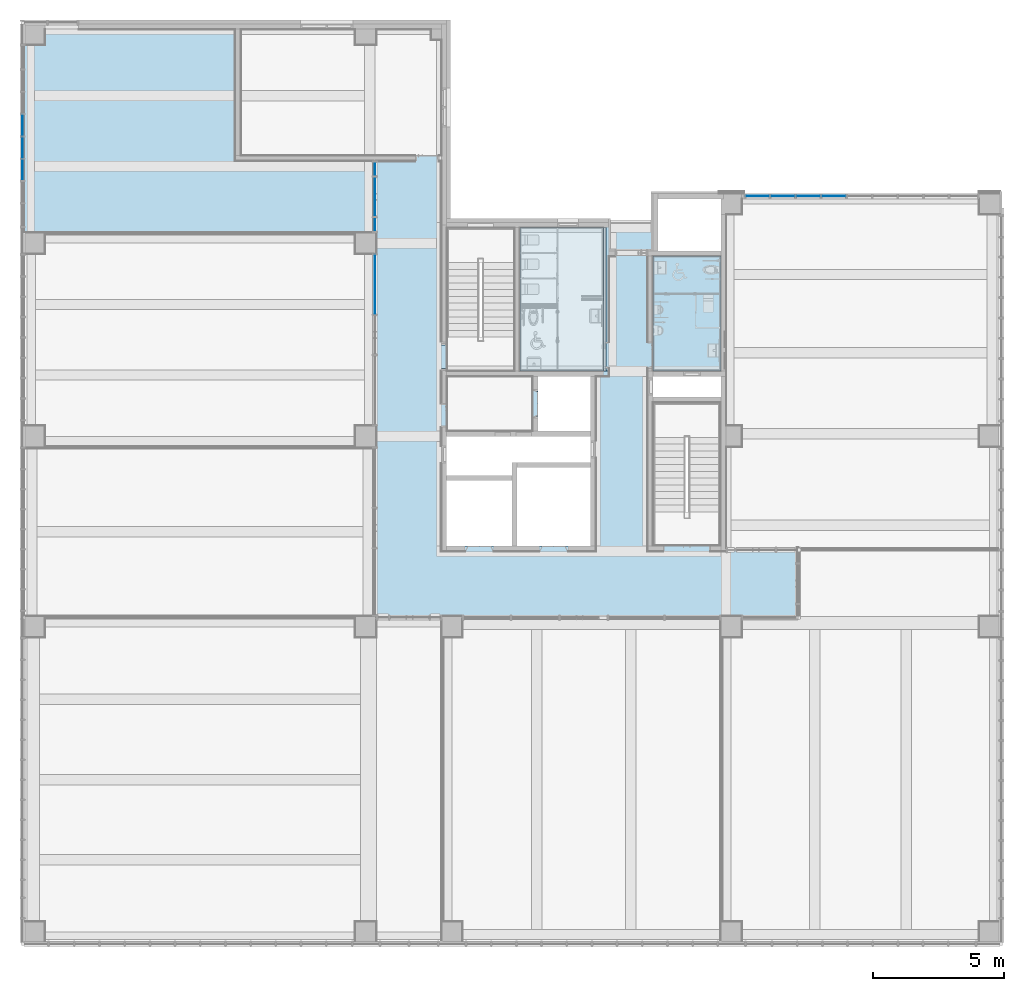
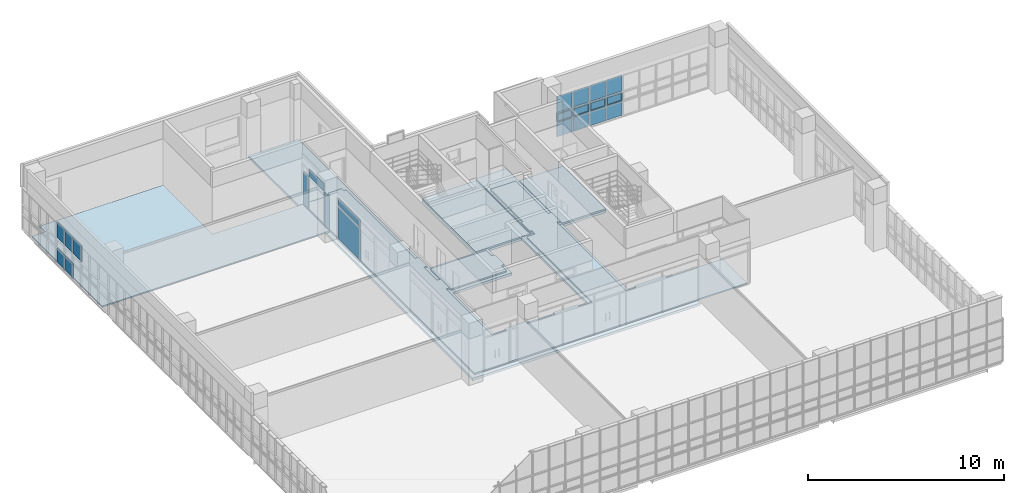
# One storey, part 34 of 76: 22 plates, 9 slabs, 4 elements without a shape of their own.
"""IFC2X3 building model written with IfcOpenShell, lengths in millimetres."""

from ifc_helpers import new_model, entity, si_unit, converted_unit, derived_unit, direction, frame, frame_2d, origin, origin_2d_with_axis, place, context, subcontext, project, spatial, polyline, rectangle, outline, extrude, source, transform, mapped, material, material_list, layer, layer_set, layer_usage, type_object, type_shapes, element, aggregate, save


model = new_model("IFC2X3")

# Units and contexts
model_context = context("Model", 3, precision=0.01, world=origin(), true_north=direction((6.123031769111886e-17, 1.0)))
body_context = subcontext(model_context, "Body", "Model", "MODEL_VIEW")
ifc_project = project(units=[si_unit("LENGTHUNIT", "METRE", prefix="MILLI"), si_unit("AREAUNIT", "SQUARE_METRE"), si_unit("VOLUMEUNIT", "CUBIC_METRE"), converted_unit("PLANEANGLEUNIT", "DEGREE", entity("IfcRatioMeasure", 0.017453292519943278), si_unit("PLANEANGLEUNIT", "RADIAN"), dimensions=[0, 0, 0, 0, 0, 0, 0]), si_unit("MASSUNIT", "GRAM", prefix="KILO"), derived_unit("MASSDENSITYUNIT", [(si_unit("MASSUNIT", "GRAM", prefix="KILO"), 1), (si_unit("LENGTHUNIT", "METRE"), -3)]), derived_unit("MOMENTOFINERTIAUNIT", [(si_unit("LENGTHUNIT", "METRE"), 4)]), si_unit("TIMEUNIT", "SECOND"), si_unit("FREQUENCYUNIT", "HERTZ"), si_unit("THERMODYNAMICTEMPERATUREUNIT", "DEGREE_CELSIUS"), derived_unit("THERMALTRANSMITTANCEUNIT", [(si_unit("MASSUNIT", "GRAM", prefix="KILO"), 1), (si_unit("THERMODYNAMICTEMPERATUREUNIT", "KELVIN"), -1), (si_unit("TIMEUNIT", "SECOND"), -3)]), derived_unit("VOLUMETRICFLOWRATEUNIT", [(si_unit("LENGTHUNIT", "METRE"), 3), (si_unit("TIMEUNIT", "SECOND"), -1)]), derived_unit("MASSFLOWRATEUNIT", [(si_unit("MASSUNIT", "GRAM", prefix="KILO"), 1), (si_unit("TIMEUNIT", "SECOND"), -1)]), derived_unit("ROTATIONALFREQUENCYUNIT", [(si_unit("TIMEUNIT", "SECOND"), -1)]), si_unit("ELECTRICCURRENTUNIT", "AMPERE"), si_unit("ELECTRICVOLTAGEUNIT", "VOLT"), si_unit("POWERUNIT", "WATT"), si_unit("FORCEUNIT", "NEWTON", prefix="KILO"), si_unit("ILLUMINANCEUNIT", "LUX"), si_unit("LUMINOUSFLUXUNIT", "LUMEN"), si_unit("LUMINOUSINTENSITYUNIT", "CANDELA"), derived_unit("USERDEFINED", [(si_unit("MASSUNIT", "GRAM", prefix="KILO"), -1), (si_unit("LENGTHUNIT", "METRE"), -2), (si_unit("TIMEUNIT", "SECOND"), 3), (si_unit("LUMINOUSFLUXUNIT", "LUMEN"), 1)]), derived_unit("SOUNDPOWERUNIT", [(si_unit("MASSUNIT", "GRAM", prefix="KILO"), 1), (si_unit("LENGTHUNIT", "METRE"), 2), (si_unit("TIMEUNIT", "SECOND"), -3)]), derived_unit("SOUNDPRESSUREUNIT", [(si_unit("MASSUNIT", "GRAM", prefix="KILO"), 1), (si_unit("LENGTHUNIT", "METRE"), -1), (si_unit("TIMEUNIT", "SECOND"), -2)]), derived_unit("LINEARVELOCITYUNIT", [(si_unit("LENGTHUNIT", "METRE"), 1), (si_unit("TIMEUNIT", "SECOND"), -1)]), si_unit("PRESSUREUNIT", "PASCAL"), derived_unit("USERDEFINED", [(si_unit("LENGTHUNIT", "METRE"), -2), (si_unit("MASSUNIT", "GRAM", prefix="KILO"), 1), (si_unit("TIMEUNIT", "SECOND"), -2)]), derived_unit("LINEARFORCEUNIT", [(si_unit("MASSUNIT", "GRAM", prefix="KILO"), 1), (si_unit("LENGTHUNIT", "METRE"), 1), (si_unit("TIMEUNIT", "SECOND"), -2), (si_unit("LENGTHUNIT", "METRE"), -1)]), derived_unit("PLANARFORCEUNIT", [(si_unit("MASSUNIT", "GRAM", prefix="KILO"), 1), (si_unit("LENGTHUNIT", "METRE"), 1), (si_unit("TIMEUNIT", "SECOND"), -2), (si_unit("LENGTHUNIT", "METRE"), -2)])], contexts=[model_context])

# Site, building, storey
site_placement = place(None, frame((-14167.972527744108, -657.2125860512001, 0.0)))
site = spatial("IfcSite", under=ifc_project, at=site_placement, Name="Default", CompositionType="ELEMENT")
building_placement = place(site_placement, origin())
building = spatial("IfcBuilding", under=site, at=building_placement, Name="Sample Building", CompositionType="ELEMENT")
storey_placement = place(building_placement, frame((0.0, 0.0, 9300.0)))
storey = spatial("IfcBuildingStorey", under=building, at=storey_placement, Name="지상 3층", CompositionType="ELEMENT", Elevation=9300.000000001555)

# Slab
ifc_material_1 = material(Name="KBIMS-콘크리트")
ifc_layer_1 = layer(ifc_material_1, 150.0)
ifc_layer_set_1 = layer_set([ifc_layer_1], Name="바닥:SL111-철근콘크리트구조 바닥 150mm_S3")
ifc_layer_usage_1 = layer_usage(ifc_layer_set_1, "AXIS3", "POSITIVE", 0.0)
slab_type_1 = type_object("IfcSlabType", Name="바닥:SL111-철근콘크리트구조 바닥 150mm_S3", PredefinedType="FLOOR", material=ifc_layer_set_1)
slab_1_placement = place(storey_placement, origin())
element("IfcSlab", 1, at=slab_1_placement, inside=storey, type_object=slab_type_1, material=ifc_layer_usage_1, Name="바닥:SL111-철근콘크리트구조 바닥 150mm_S3", ObjectType="바닥:SL111-철근콘크리트구조 바닥 150mm_S3", PredefinedType="FLOOR", context=body_context, shape_type="SweptSolid", body=[
    extrude(outline(polyline([(-7900.0, -6442.761990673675), (15050.0, -6442.761990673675), (15050.0, -3492.877378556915), (1750.0000097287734, -3492.877378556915), (1750.0000097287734, 7.131351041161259), (-749.9999936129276, 7.131351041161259), (-749.9999936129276, -3492.8773419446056), (-4950.0, -3492.877341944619), (-4950.0, 2007.1313510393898), (1750.000009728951, 2007.1313510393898), (1750.000009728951, 4407.122658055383), (-4950.0, 4407.122658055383), (-4950.0, 7007.131351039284), (-7900.0, 7007.131351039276), (-7900.0, -6442.761990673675)])), frame((33760.841140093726, 20707.212301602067, 0.0), z_axis=(0.0, 0.0, -1.0), x_axis=(0.0, 1.0, 0.0)), (0.0, 0.0, 1.0), 150.00000000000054),
])

# Curtain wall, plates
curtain_wall_type = type_object("IfcCurtainWallType", Name="커튼월:CW112-스테인리스 스틸 커튼월", PredefinedType="NOTDEFINED")
curtain_wall_1_placement = place(storey_placement, frame((0.0, 0.0, -9300.0)))
curtain_wall_1 = element("IfcCurtainWall", 2, at=curtain_wall_1_placement, inside=storey, type_object=curtain_wall_type, Name="커튼월:CW112-스테인리스 스틸 커튼월", ObjectType="커튼월:CW112-스테인리스 스틸 커튼월")
ifc_material_2 = material(Name="KBIMS-로이유리(코팅)")
plate_type_1 = type_object("IfcPlateType", Name="CW300-THK24.Low-e coating glass:CW300-THK24.Low-e coating glass", PredefinedType="CURTAIN_PANEL", material=ifc_material_2)
shared_shape_1 = source(origin(), body_context, "Body", "SweptSolid", [
    extrude(rectangle(XDim=524.9999999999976, YDim=24.000000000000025, at=origin_2d_with_axis()), frame((0.0, 0.0, 0.0), z_axis=(0.0, 0.0, 1.0), x_axis=(-1.0, 0.0, 0.0)), (0.0, 0.0, 1.0), 2025.000000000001),
])
type_shapes(plate_type_1, [shared_shape_1])
plate_1_placement = place(curtain_wall_1_placement, frame((27522.955105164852, 30194.712275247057, 9430.0), z_axis=(0.0, 0.0, 1.0), x_axis=(0.0, -1.0, 0.0)))
plate_1 = element("IfcPlate", 3, at=plate_1_placement, type_object=plate_type_1, material=ifc_material_2, Name="CW300-THK24.Low-e coating glass:CW300-THK24.Low-e coating glass", ObjectType="CW300-THK24.Low-e coating glass:CW300-THK24.Low-e coating glass", context=body_context, shape_type="MappedRepresentation", body=[
    mapped(shared_shape_1, transform((0.0, 0.0, 0.0), scale=1.0)),
])
plate_type_2 = type_object("IfcPlateType", Name="CW300-THK24.Low-e coating glass:CW300-THK24.Low-e coating glass", PredefinedType="CURTAIN_PANEL", material=ifc_material_2)
shared_shape_2 = source(origin(), body_context, "Body", "SweptSolid", [
    extrude(rectangle(XDim=520.0002780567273, YDim=24.000000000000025, at=origin_2d_with_axis()), frame((0.0, 0.0, 0.0), z_axis=(0.0, 0.0, 1.0), x_axis=(-1.0, 0.0, 0.0)), (0.0, 0.0, 1.0), 2025.000000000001),
])
type_shapes(plate_type_2, [shared_shape_2])
plate_2_placement = place(curtain_wall_1_placement, frame((27522.955105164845, 28067.212447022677, 9430.0), z_axis=(0.0, 0.0, 1.0), x_axis=(0.0, -1.0, 0.0)))
plate_2 = element("IfcPlate", 4, at=plate_2_placement, type_object=plate_type_2, material=ifc_material_2, Name="CW300-THK24.Low-e coating glass:CW300-THK24.Low-e coating glass", ObjectType="CW300-THK24.Low-e coating glass:CW300-THK24.Low-e coating glass", context=body_context, shape_type="MappedRepresentation", body=[
    mapped(shared_shape_2, transform((0.0, 0.0, 0.0), scale=1.0)),
])
plate_type_3 = type_object("IfcPlateType", Name="CW300-THK24.Low-e coating glass:CW300-THK24.Low-e coating glass", PredefinedType="CURTAIN_PANEL", material=ifc_material_2)
shared_shape_3 = source(origin(), body_context, "Body", "SweptSolid", [
    extrude(rectangle(XDim=1504.9996891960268, YDim=24.000000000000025, at=origin_2d_with_axis()), frame((0.0, 0.0, 0.0), z_axis=(0.0, 0.0, 1.0), x_axis=(-1.0, 0.0, 0.0)), (0.0, 0.0, 1.0), 445.00000000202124),
])
type_shapes(plate_type_3, [shared_shape_3])
plate_3_placement = place(curtain_wall_1_placement, frame((27522.955105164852, 29129.71243064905, 11505.0), z_axis=(0.0, 0.0, 1.0), x_axis=(0.0, -1.0, 0.0)))
plate_3 = element("IfcPlate", 5, at=plate_3_placement, type_object=plate_type_3, material=ifc_material_2, Name="CW300-THK24.Low-e coating glass:CW300-THK24.Low-e coating glass", ObjectType="CW300-THK24.Low-e coating glass:CW300-THK24.Low-e coating glass", context=body_context, shape_type="MappedRepresentation", body=[
    mapped(shared_shape_3, transform((0.0, 0.0, 0.0), scale=1.0)),
])
aggregate(curtain_wall_1, [plate_1, plate_2, plate_3])

curtain_wall_2_placement = place(storey_placement, frame((0.0, 0.0, -9300.0)))
curtain_wall_2 = element("IfcCurtainWall", 6, at=curtain_wall_2_placement, inside=storey, type_object=curtain_wall_type, Name="커튼월:CW112-스테인리스 스틸 커튼월", ObjectType="커튼월:CW112-스테인리스 스틸 커튼월")
plate_type_4 = type_object("IfcPlateType", Name="CW300-THK24.Low-e coating glass:CW300-THK24.Low-e coating glass", PredefinedType="CURTAIN_PANEL", material=ifc_material_2)
shared_shape_4 = source(origin(), body_context, "Body", "SweptSolid", [
    extrude(rectangle(XDim=2265.0000000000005, YDim=24.000000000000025, at=origin_2d_with_axis()), frame((0.0, 0.0, 0.0), z_axis=(0.0, 0.0, 1.0), x_axis=(-1.0, 0.0, 0.0)), (0.0, 0.0, 1.0), 2024.9999999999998),
])
type_shapes(plate_type_4, [shared_shape_4])
plate_4_placement = place(curtain_wall_2_placement, frame((27522.955105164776, 25774.712307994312, 9430.0), z_axis=(0.0, 0.0, 1.0), x_axis=(0.0, -1.0, 0.0)))
plate_4 = element("IfcPlate", 7, at=plate_4_placement, type_object=plate_type_4, material=ifc_material_2, Name="CW300-THK24.Low-e coating glass:CW300-THK24.Low-e coating glass", ObjectType="CW300-THK24.Low-e coating glass:CW300-THK24.Low-e coating glass", context=body_context, shape_type="MappedRepresentation", body=[
    mapped(shared_shape_4, transform((0.0, 0.0, 0.0), scale=1.0)),
])
plate_type_5 = type_object("IfcPlateType", Name="CW300-THK24.Low-e coating glass:CW300-THK24.Low-e coating glass", PredefinedType="CURTAIN_PANEL", material=ifc_material_2)
shared_shape_5 = source(origin(), body_context, "Body", "SweptSolid", [
    extrude(rectangle(XDim=2265.0000000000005, YDim=24.000000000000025, at=origin_2d_with_axis()), frame((0.0, 0.0, 0.0), z_axis=(0.0, 0.0, 1.0), x_axis=(-1.0, 0.0, 0.0)), (0.0, 0.0, 1.0), 445.00000000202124),
])
type_shapes(plate_type_5, [shared_shape_5])
plate_5_placement = place(curtain_wall_2_placement, frame((27522.955105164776, 25774.712307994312, 11505.0), z_axis=(0.0, 0.0, 1.0), x_axis=(0.0, -1.0, 0.0)))
plate_5 = element("IfcPlate", 8, at=plate_5_placement, type_object=plate_type_5, material=ifc_material_2, Name="CW300-THK24.Low-e coating glass:CW300-THK24.Low-e coating glass", ObjectType="CW300-THK24.Low-e coating glass:CW300-THK24.Low-e coating glass", context=body_context, shape_type="MappedRepresentation", body=[
    mapped(shared_shape_5, transform((0.0, 0.0, 0.0), scale=1.0)),
])
aggregate(curtain_wall_2, [plate_4, plate_5])

curtain_wall_3_placement = place(storey_placement, frame((0.0, 0.0, -9300.0)))
curtain_wall_3 = element("IfcCurtainWall", 9, at=curtain_wall_3_placement, inside=storey, type_object=curtain_wall_type, Name="커튼월:CW112-스테인리스 스틸 커튼월", ObjectType="커튼월:CW112-스테인리스 스틸 커튼월")
plate_type_6 = type_object("IfcPlateType", Name="CW300-THK24.Low-e coating glass:CW300-THK24.Low-e coating glass", PredefinedType="CURTAIN_PANEL", material=ifc_material_2)
shared_shape_6 = source(origin(), body_context, "Body", "SweptSolid", [
    extrude(rectangle(XDim=804.0000000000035, YDim=24.000000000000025, at=origin_2d_with_axis()), frame((0.0, 0.0, 0.0), z_axis=(0.0, 0.0, 1.0), x_axis=(-1.0, 0.0, 0.0)), (0.0, 0.0, 1.0), 875.0000000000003),
])
type_shapes(plate_type_6, [shared_shape_6])
plate_6_placement = place(curtain_wall_3_placement, frame((14018.587904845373, 31874.81770709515, 9430.0), z_axis=(0.0, 0.0, 1.0), x_axis=(0.0, -1.0, 0.0)))
plate_6 = element("IfcPlate", 10, at=plate_6_placement, type_object=plate_type_6, material=ifc_material_2, Name="CW300-THK24.Low-e coating glass:CW300-THK24.Low-e coating glass", ObjectType="CW300-THK24.Low-e coating glass:CW300-THK24.Low-e coating glass", context=body_context, shape_type="MappedRepresentation", body=[
    mapped(shared_shape_6, transform((0.0, 0.0, 0.0), scale=1.0)),
])
plate_7_placement = place(curtain_wall_3_placement, frame((14018.587904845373, 31020.817707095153, 9430.0), z_axis=(0.0, 0.0, 1.0), x_axis=(0.0, -1.0, 0.0)))
plate_7 = element("IfcPlate", 11, at=plate_7_placement, type_object=plate_type_6, material=ifc_material_2, Name="CW300-THK24.Low-e coating glass:CW300-THK24.Low-e coating glass", ObjectType="CW300-THK24.Low-e coating glass:CW300-THK24.Low-e coating glass", context=body_context, shape_type="MappedRepresentation", body=[
    mapped(shared_shape_6, transform((0.0, 0.0, 0.0), scale=1.0)),
])
plate_type_7 = type_object("IfcPlateType", Name="CW300-THK24.Low-e coating glass:CW300-THK24.Low-e coating glass", PredefinedType="CURTAIN_PANEL", material=ifc_material_2)
shared_shape_7 = source(origin(), body_context, "Body", "SweptSolid", [
    extrude(rectangle(XDim=803.9999999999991, YDim=24.000000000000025, at=origin_2d_with_axis()), frame((0.0, 0.0, 0.0), z_axis=(0.0, 0.0, 1.0), x_axis=(-1.0, 0.0, 0.0)), (0.0, 0.0, 1.0), 995.0000000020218),
])
type_shapes(plate_type_7, [shared_shape_7])
plate_8_placement = place(curtain_wall_3_placement, frame((14018.587904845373, 31874.81770709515, 10955.0), z_axis=(0.0, 0.0, 1.0), x_axis=(0.0, -1.0, 0.0)))
plate_8 = element("IfcPlate", 12, at=plate_8_placement, type_object=plate_type_7, material=ifc_material_2, Name="CW300-THK24.Low-e coating glass:CW300-THK24.Low-e coating glass", ObjectType="CW300-THK24.Low-e coating glass:CW300-THK24.Low-e coating glass", context=body_context, shape_type="MappedRepresentation", body=[
    mapped(shared_shape_7, transform((0.0, 0.0, 0.0), scale=1.0)),
])
plate_9_placement = place(curtain_wall_3_placement, frame((14018.587904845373, 31020.817707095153, 10955.0), z_axis=(0.0, 0.0, 1.0), x_axis=(0.0, -1.0, 0.0)))
plate_9 = element("IfcPlate", 13, at=plate_9_placement, type_object=plate_type_7, material=ifc_material_2, Name="CW300-THK24.Low-e coating glass:CW300-THK24.Low-e coating glass", ObjectType="CW300-THK24.Low-e coating glass:CW300-THK24.Low-e coating glass", context=body_context, shape_type="MappedRepresentation", body=[
    mapped(shared_shape_7, transform((0.0, 0.0, 0.0), scale=1.0)),
])
plate_10_placement = place(curtain_wall_3_placement, frame((14018.587904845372, 30166.81770709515, 10955.0), z_axis=(0.0, 0.0, 1.0), x_axis=(0.0, -1.0, 0.0)))
plate_10 = element("IfcPlate", 14, at=plate_10_placement, type_object=plate_type_7, material=ifc_material_2, Name="CW300-THK24.Low-e coating glass:CW300-THK24.Low-e coating glass", ObjectType="CW300-THK24.Low-e coating glass:CW300-THK24.Low-e coating glass", context=body_context, shape_type="MappedRepresentation", body=[
    mapped(shared_shape_7, transform((0.0, 0.0, 0.0), scale=1.0)),
])
aggregate(curtain_wall_3, [plate_6, plate_7, plate_8, plate_9, plate_10])

curtain_wall_4_placement = place(storey_placement, frame((0.0, 0.0, -9300.0)))
curtain_wall_4 = element("IfcCurtainWall", 15, at=curtain_wall_4_placement, inside=storey, type_object=curtain_wall_type, Name="커튼월:CW112-스테인리스 스틸 커튼월", ObjectType="커튼월:CW112-스테인리스 스틸 커튼월")
plate_type_8 = type_object("IfcPlateType", Name="CW300-THK24.Low-e coating glass:CW300-THK24.Low-e coating glass", PredefinedType="CURTAIN_PANEL", material=ifc_material_2)
shared_shape_8 = source(origin(), body_context, "Body", "SweptSolid", [
    extrude(rectangle(XDim=929.9991343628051, YDim=24.000000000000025, at=origin_2d_with_axis()), frame((0.0, 0.0, 0.0), z_axis=(0.0, 0.0, 1.0), x_axis=(-1.0, 0.0, 0.0)), (0.0, 0.0, 1.0), 875.0000000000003),
])
type_shapes(plate_type_8, [shared_shape_8])
plate_11_placement = place(curtain_wall_4_placement, frame((45097.9694555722, 29157.212295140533, 9430.0), z_axis=(0.0, 0.0, 1.0), x_axis=(-1.0, 0.0, 0.0)))
plate_11 = element("IfcPlate", 16, at=plate_11_placement, type_object=plate_type_8, material=ifc_material_2, Name="CW300-THK24.Low-e coating glass:CW300-THK24.Low-e coating glass", ObjectType="CW300-THK24.Low-e coating glass:CW300-THK24.Low-e coating glass", context=body_context, shape_type="MappedRepresentation", body=[
    mapped(shared_shape_8, transform((0.0, 0.0, 0.0), scale=1.0)),
])
plate_12_placement = place(curtain_wall_4_placement, frame((44117.97032120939, 29157.212295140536, 9430.0), z_axis=(0.0, 0.0, 1.0), x_axis=(-1.0, 0.0, 0.0)))
plate_12 = element("IfcPlate", 17, at=plate_12_placement, type_object=plate_type_8, material=ifc_material_2, Name="CW300-THK24.Low-e coating glass:CW300-THK24.Low-e coating glass", ObjectType="CW300-THK24.Low-e coating glass:CW300-THK24.Low-e coating glass", context=body_context, shape_type="MappedRepresentation", body=[
    mapped(shared_shape_8, transform((0.0, 0.0, 0.0), scale=1.0)),
])
plate_13_placement = place(curtain_wall_4_placement, frame((43137.971186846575, 29157.21229514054, 9430.0), z_axis=(0.0, 0.0, 1.0), x_axis=(-1.0, 0.0, 0.0)))
plate_13 = element("IfcPlate", 18, at=plate_13_placement, type_object=plate_type_8, material=ifc_material_2, Name="CW300-THK24.Low-e coating glass:CW300-THK24.Low-e coating glass", ObjectType="CW300-THK24.Low-e coating glass:CW300-THK24.Low-e coating glass", context=body_context, shape_type="MappedRepresentation", body=[
    mapped(shared_shape_8, transform((0.0, 0.0, 0.0), scale=1.0)),
])
plate_type_9 = type_object("IfcPlateType", Name="CW300-THK24.Low-e coating glass:CW300-THK24.Low-e coating glass", PredefinedType="CURTAIN_PANEL", material=ifc_material_2)
shared_shape_9 = source(origin(), body_context, "Body", "SweptSolid", [
    extrude(rectangle(XDim=904.9991343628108, YDim=24.000000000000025, at=origin_2d_with_axis()), frame((0.0, 0.0, 0.0), z_axis=(0.0, 0.0, 1.0), x_axis=(-1.0, 0.0, 0.0)), (0.0, 0.0, 1.0), 875.0000000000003),
])
type_shapes(plate_type_9, [shared_shape_9])
plate_14_placement = place(curtain_wall_4_placement, frame((42170.47205248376, 29157.21229514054, 9430.0), z_axis=(0.0, 0.0, 1.0), x_axis=(-1.0, 0.0, 0.0)))
plate_14 = element("IfcPlate", 19, at=plate_14_placement, type_object=plate_type_9, material=ifc_material_2, Name="CW300-THK24.Low-e coating glass:CW300-THK24.Low-e coating glass", ObjectType="CW300-THK24.Low-e coating glass:CW300-THK24.Low-e coating glass", context=body_context, shape_type="MappedRepresentation", body=[
    mapped(shared_shape_9, transform((0.0, 0.0, 0.0), scale=1.0)),
])
ifc_material_3 = material(Name="KBIMS-유리")
ifc_material_4 = material(Name="KBIMS-알루미늄")
ifc_material_list_1 = material_list([ifc_material_3, ifc_material_4])
ifc_material_list_2 = material_list([ifc_material_3, ifc_material_4])
plate_type_10 = type_object("IfcPlateType", Name="CW410-프로젝트 창:CW410-프로젝트 창 (하부개폐)", PredefinedType="CURTAIN_PANEL", material=ifc_material_list_2)
shared_shape_10 = source(origin(), body_context, "Body", "SweptSolid", [
    extrude(rectangle(XDim=829.9991343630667, YDim=23.999999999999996, at=origin_2d_with_axis()), frame((0.0, -0.04999999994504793, 50.0), z_axis=(0.0, 0.0, 1.0), x_axis=(-1.0, 0.0, 0.0)), (0.0, 0.0, 1.0), 450.0000000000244),
    extrude(outline(polyline([(-464.9995671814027, -275.0), (464.9995671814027, -275.0), (464.9995671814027, 275.0), (-464.9995671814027, 275.0), (-464.9995671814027, -275.0)]), holes=[polyline([(-414.9995671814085, -225.0), (-414.99956718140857, 225.0), (414.99956718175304, 225.0), (414.99956718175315, -225.0), (-414.9995671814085, -225.0)])]), frame((0.0, -50.04999999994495, 275.0), z_axis=(0.0, 1.0, 0.0), x_axis=(1.0, 0.0, 0.0)), (0.0, 0.0, 1.0), 99.99999999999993),
])
type_shapes(plate_type_10, [shared_shape_10])
plate_15_placement = place(curtain_wall_4_placement, frame((45097.9694555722, 29157.212295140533, 10355.0), z_axis=(0.0, 0.0, 1.0), x_axis=(-1.0, 0.0, 0.0)))
plate_15 = element("IfcPlate", 20, at=plate_15_placement, type_object=plate_type_10, material=ifc_material_list_1, Name="CW410-프로젝트 창:CW410-프로젝트 창 (하부개폐)", ObjectType="CW410-프로젝트 창:CW410-프로젝트 창 (하부개폐)", context=body_context, shape_type="MappedRepresentation", body=[
    mapped(shared_shape_10, transform((0.0, 0.0, 0.0), scale=1.0)),
])
ifc_material_list_3 = material_list([ifc_material_3, ifc_material_4])
plate_16_placement = place(curtain_wall_4_placement, frame((44117.97032120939, 29157.212295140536, 10355.0), z_axis=(0.0, 0.0, 1.0), x_axis=(-1.0, 0.0, 0.0)))
plate_16 = element("IfcPlate", 21, at=plate_16_placement, type_object=plate_type_10, material=ifc_material_list_3, Name="CW410-프로젝트 창:CW410-프로젝트 창 (하부개폐)", ObjectType="CW410-프로젝트 창:CW410-프로젝트 창 (하부개폐)", context=body_context, shape_type="MappedRepresentation", body=[
    mapped(shared_shape_10, transform((0.0, 0.0, 0.0), scale=1.0)),
])
ifc_material_list_4 = material_list([ifc_material_3, ifc_material_4])
plate_17_placement = place(curtain_wall_4_placement, frame((43137.971186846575, 29157.21229514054, 10355.0), z_axis=(0.0, 0.0, 1.0), x_axis=(-1.0, 0.0, 0.0)))
plate_17 = element("IfcPlate", 22, at=plate_17_placement, type_object=plate_type_10, material=ifc_material_list_4, Name="CW410-프로젝트 창:CW410-프로젝트 창 (하부개폐)", ObjectType="CW410-프로젝트 창:CW410-프로젝트 창 (하부개폐)", context=body_context, shape_type="MappedRepresentation", body=[
    mapped(shared_shape_10, transform((0.0, 0.0, 0.0), scale=1.0)),
])
ifc_material_list_5 = material_list([ifc_material_3, ifc_material_4])
ifc_material_list_6 = material_list([ifc_material_3, ifc_material_4])
plate_type_11 = type_object("IfcPlateType", Name="CW410-프로젝트 창:CW410-프로젝트 창 (하부개폐)", PredefinedType="CURTAIN_PANEL", material=ifc_material_list_6)
shared_shape_11 = source(origin(), body_context, "Body", "SweptSolid", [
    extrude(rectangle(XDim=804.9991343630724, YDim=23.999999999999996, at=origin_2d_with_axis()), frame((0.0, -0.04999999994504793, 50.0), z_axis=(0.0, 0.0, 1.0), x_axis=(-1.0, 0.0, 0.0)), (0.0, 0.0, 1.0), 450.0000000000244),
    extrude(outline(polyline([(-452.49956718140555, -275.0), (452.49956718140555, -275.0), (452.49956718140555, 275.0), (-452.49956718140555, 275.0), (-452.49956718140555, -275.0)]), holes=[polyline([(-402.49956718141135, -225.0), (-402.4995671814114, 225.0), (402.4995671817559, 225.0), (402.499567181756, -225.0), (-402.49956718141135, -225.0)])]), frame((0.0, -50.04999999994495, 275.0), z_axis=(0.0, 1.0, 0.0), x_axis=(1.0, 0.0, 0.0)), (0.0, 0.0, 1.0), 99.99999999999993),
])
type_shapes(plate_type_11, [shared_shape_11])
plate_18_placement = place(curtain_wall_4_placement, frame((42170.47205248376, 29157.21229514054, 10355.0), z_axis=(0.0, 0.0, 1.0), x_axis=(-1.0, 0.0, 0.0)))
plate_18 = element("IfcPlate", 23, at=plate_18_placement, type_object=plate_type_11, material=ifc_material_list_5, Name="CW410-프로젝트 창:CW410-프로젝트 창 (하부개폐)", ObjectType="CW410-프로젝트 창:CW410-프로젝트 창 (하부개폐)", context=body_context, shape_type="MappedRepresentation", body=[
    mapped(shared_shape_11, transform((0.0, 0.0, 0.0), scale=1.0)),
])
plate_type_12 = type_object("IfcPlateType", Name="CW300-THK24.Low-e coating glass:CW300-THK24.Low-e coating glass", PredefinedType="CURTAIN_PANEL", material=ifc_material_2)
shared_shape_12 = source(origin(), body_context, "Body", "SweptSolid", [
    extrude(rectangle(XDim=929.9991343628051, YDim=24.000000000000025, at=origin_2d_with_axis()), frame((0.0, 0.0, 0.0), z_axis=(0.0, 0.0, 1.0), x_axis=(-1.0, 0.0, 0.0)), (0.0, 0.0, 1.0), 995.0000000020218),
])
type_shapes(plate_type_12, [shared_shape_12])
plate_19_placement = place(curtain_wall_4_placement, frame((45097.9694555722, 29157.212295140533, 10955.0), z_axis=(0.0, 0.0, 1.0), x_axis=(-1.0, 0.0, 0.0)))
plate_19 = element("IfcPlate", 24, at=plate_19_placement, type_object=plate_type_12, material=ifc_material_2, Name="CW300-THK24.Low-e coating glass:CW300-THK24.Low-e coating glass", ObjectType="CW300-THK24.Low-e coating glass:CW300-THK24.Low-e coating glass", context=body_context, shape_type="MappedRepresentation", body=[
    mapped(shared_shape_12, transform((0.0, 0.0, 0.0), scale=1.0)),
])
plate_20_placement = place(curtain_wall_4_placement, frame((44117.97032120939, 29157.212295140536, 10955.0), z_axis=(0.0, 0.0, 1.0), x_axis=(-1.0, 0.0, 0.0)))
plate_20 = element("IfcPlate", 25, at=plate_20_placement, type_object=plate_type_12, material=ifc_material_2, Name="CW300-THK24.Low-e coating glass:CW300-THK24.Low-e coating glass", ObjectType="CW300-THK24.Low-e coating glass:CW300-THK24.Low-e coating glass", context=body_context, shape_type="MappedRepresentation", body=[
    mapped(shared_shape_12, transform((0.0, 0.0, 0.0), scale=1.0)),
])
plate_21_placement = place(curtain_wall_4_placement, frame((43137.971186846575, 29157.21229514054, 10955.0), z_axis=(0.0, 0.0, 1.0), x_axis=(-1.0, 0.0, 0.0)))
plate_21 = element("IfcPlate", 26, at=plate_21_placement, type_object=plate_type_12, material=ifc_material_2, Name="CW300-THK24.Low-e coating glass:CW300-THK24.Low-e coating glass", ObjectType="CW300-THK24.Low-e coating glass:CW300-THK24.Low-e coating glass", context=body_context, shape_type="MappedRepresentation", body=[
    mapped(shared_shape_12, transform((0.0, 0.0, 0.0), scale=1.0)),
])
plate_type_13 = type_object("IfcPlateType", Name="CW300-THK24.Low-e coating glass:CW300-THK24.Low-e coating glass", PredefinedType="CURTAIN_PANEL", material=ifc_material_2)
shared_shape_13 = source(origin(), body_context, "Body", "SweptSolid", [
    extrude(rectangle(XDim=904.9991343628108, YDim=24.000000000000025, at=origin_2d_with_axis()), frame((0.0, 0.0, 0.0), z_axis=(0.0, 0.0, 1.0), x_axis=(-1.0, 0.0, 0.0)), (0.0, 0.0, 1.0), 995.0000000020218),
])
type_shapes(plate_type_13, [shared_shape_13])
plate_22_placement = place(curtain_wall_4_placement, frame((42170.47205248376, 29157.21229514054, 10955.0), z_axis=(0.0, 0.0, 1.0), x_axis=(-1.0, 0.0, 0.0)))
plate_22 = element("IfcPlate", 27, at=plate_22_placement, type_object=plate_type_13, material=ifc_material_2, Name="CW300-THK24.Low-e coating glass:CW300-THK24.Low-e coating glass", ObjectType="CW300-THK24.Low-e coating glass:CW300-THK24.Low-e coating glass", context=body_context, shape_type="MappedRepresentation", body=[
    mapped(shared_shape_13, transform((0.0, 0.0, 0.0), scale=1.0)),
])
aggregate(curtain_wall_4, [plate_11, plate_12, plate_13, plate_14, plate_15, plate_16, plate_17, plate_18, plate_19, plate_20, plate_21, plate_22])

# Slabs
ifc_layer_2 = layer(ifc_material_1, 150.0)
ifc_layer_set_2 = layer_set([ifc_layer_2], Name="바닥:SL111-철근콘크리트구조 바닥 150mm_S4")
ifc_layer_usage_2 = layer_usage(ifc_layer_set_2, "AXIS3", "POSITIVE", 0.0)
slab_type_2 = type_object("IfcSlabType", Name="바닥:SL111-철근콘크리트구조 바닥 150mm_S4", PredefinedType="FLOOR", material=ifc_layer_set_2)
slab_2_placement = place(storey_placement, origin())
element("IfcSlab", 28, at=slab_2_placement, inside=storey, type_object=slab_type_2, material=ifc_layer_usage_2, Name="바닥:SL111-철근콘크리트구조 바닥 150mm_S4", ObjectType="바닥:SL111-철근콘크리트구조 바닥 150mm_S4", PredefinedType="FLOOR", context=body_context, shape_type="SweptSolid", body=[
    extrude(rectangle(XDim=5699.999805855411, YDim=1799.9825708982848, at=frame_2d((-2.2737367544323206e-12, 0.0), x_axis=(1.0, 0.0))), frame((37267.963776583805, 25307.212214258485, 0.0), z_axis=(0.0, 0.0, -1.0), x_axis=(0.0, 1.0, 0.0)), (0.0, 0.0, 1.0), 150.00000000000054),
])
ifc_layer_usage_3 = layer_usage(ifc_layer_set_2, "AXIS3", "POSITIVE", 0.0)
slab_type_3 = type_object("IfcSlabType", Name="바닥:SL111-철근콘크리트구조 바닥 150mm_S4", PredefinedType="FLOOR")
slab_3_placement = place(storey_placement, frame((33067.972491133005, 22457.21230348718, -200.0)))
element("IfcSlab", 29, at=slab_3_placement, inside=storey, type_object=slab_type_3, material=ifc_layer_usage_3, Name="바닥:SL111-철근콘크리트구조 바닥 150mm_S4", ObjectType="바닥:SL111-철근콘크리트구조 바닥 150mm_S4", PredefinedType="FLOOR", context=body_context, shape_type="SweptSolid", body=[
    extrude(rectangle(XDim=5499.999996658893, YDim=3300.000000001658, at=frame_2d((2199.9956319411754, 3.921798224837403e-06), x_axis=(0.0, -1.0))), frame((3849.9956319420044, 2750.0, 150.0), z_axis=(0.0, 0.0, -1.0), x_axis=(-1.0, 0.0, 0.0)), (0.0, 0.0, 1.0), 150.00000000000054),
])
slab_type_4 = type_object("IfcSlabType", Name="바닥:SL111-철근콘크리트구조 바닥 150mm_S4", PredefinedType="FLOOR", material=ifc_layer_set_2)
slab_4_placement = place(storey_placement, frame((33067.972491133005, 22457.21230348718, -200.0)))
element("IfcSlab", 30, at=slab_4_placement, inside=storey, type_object=slab_type_4, material=ifc_layer_usage_3, Name="바닥:SL111-철근콘크리트구조 바닥 150mm_S4:2", ObjectType="바닥:SL111-철근콘크리트구조 바닥 150mm_S4", PredefinedType="FLOOR", context=body_context, shape_type="SweptSolid", body=[
    extrude(rectangle(XDim=4399.999996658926, YDim=2600.0086929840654, at=frame_2d((-2549.9912854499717, -550.0000039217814), x_axis=(0.0, -1.0))), frame((3849.9956319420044, 2750.0, 150.0), z_axis=(0.0, 0.0, -1.0), x_axis=(-1.0, 0.0, 0.0)), (0.0, 0.0, 1.0), 150.00000000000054),
])
ifc_material_5 = material(Name="SL341-테라조 바닥 (바탕48mm, 마감32mm)")
ifc_layer_3 = layer(ifc_material_5, 80.0)
ifc_layer_set_3 = layer_set([ifc_layer_3], Name="바닥:A1-14-06B-테라조타일 (80mm)")
ifc_layer_usage_4 = layer_usage(ifc_layer_set_3, "AXIS3", "POSITIVE", 0.0)
slab_type_5 = type_object("IfcSlabType", Name="바닥:A1-14-06B-테라조타일 (80mm)", PredefinedType="FLOOR", material=ifc_layer_set_3)
slab_5_placement = place(storey_placement, origin())
element("IfcSlab", 31, at=slab_5_placement, inside=storey, type_object=slab_type_5, material=ifc_layer_usage_4, Name="바닥:A1-14-06B-테라조타일 (80mm)", ObjectType="바닥:A1-14-06B-테라조타일 (80mm)", PredefinedType="FLOOR", context=body_context, shape_type="SweptSolid", body=[
    extrude(outline(polyline([(-4437.499981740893, -5577.495671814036), (2762.499990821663, -5577.495671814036), (2762.4999908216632, -4777.495671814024), (3362.500005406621, -4777.495671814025), (3362.500005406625, 2522.504364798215), (-1687.5000144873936, 2522.504364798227), (-1687.5000144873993, 7832.486978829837), (-4437.499981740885, 7832.486978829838), (-4437.499981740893, -5577.495671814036)])), frame((19645.46812633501, 32194.71228973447, 80.0), z_axis=(0.0, 0.0, -1.0), x_axis=(0.0, 1.0, 0.0)), (0.0, 0.0, 1.0), 80.00000000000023),
])
ifc_material_6 = material(Name="SL312-화강석물갈기 바닥 (바탕30mm, 마감30mm)")
ifc_layer_4 = layer(ifc_material_6, 80.0)
ifc_layer_set_4 = layer_set([ifc_layer_4], Name="바닥:A1-15-01B-화강석(물갈기) (80mm)")
ifc_layer_usage_5 = layer_usage(ifc_layer_set_4, "AXIS3", "POSITIVE", 0.0)
slab_type_6 = type_object("IfcSlabType", Name="바닥:A1-15-01B-화강석(물갈기) (80mm)", PredefinedType="FLOOR", material=ifc_layer_set_4)
slab_6_placement = place(storey_placement, origin())
element("IfcSlab", 32, at=slab_6_placement, inside=storey, type_object=slab_type_6, material=ifc_layer_usage_5, Name="바닥:A1-15-01B-화강석(물갈기) (80mm)", ObjectType="바닥:A1-15-01B-화강석(물갈기) (80mm)", PredefinedType="FLOOR", context=body_context, shape_type="SweptSolid", body=[
    extrude(outline(polyline([(-1050.0, -2523.6215396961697), (1050.0, -2523.6215396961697), (1050.0, 774.540513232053), (507.3633281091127, 774.540513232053), (479.7770683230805, 974.5405132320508), (-479.7770683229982, 974.5405132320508), (-507.36332810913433, 774.540513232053), (-1050.0, 774.540513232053), (-1050.0, -2523.6215396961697)])), frame((32791.58530123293, 21207.212309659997, 80.0), z_axis=(0.0, 0.0, -1.0), x_axis=(0.0, 1.0, 0.0)), (0.0, 0.0, 1.0), 80.00000000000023),
])
ifc_layer_usage_6 = layer_usage(ifc_layer_set_4, "AXIS3", "POSITIVE", 0.0)
slab_type_7 = type_object("IfcSlabType", Name="바닥:A1-15-01B-화강석(물갈기) (80mm)", PredefinedType="FLOOR", material=ifc_layer_set_4)
slab_7_placement = place(storey_placement, origin())
element("IfcSlab", 33, at=slab_7_placement, inside=storey, type_object=slab_type_7, material=ifc_layer_usage_6, Name="바닥:A1-15-01B-화강석(물갈기) (80mm)", ObjectType="바닥:A1-15-01B-화강석(물갈기) (80mm)", PredefinedType="FLOOR", context=body_context, shape_type="SweptSolid", body=[
    extrude(outline(polyline([(-7676.716522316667, -6733.193085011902), (9773.283444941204, -6733.193085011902), (9773.283444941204, -5203.184428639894), (9973.283444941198, -5203.184428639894), (9973.283444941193, -4363.184428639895), (9773.283444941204, -4363.184428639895), (9773.283444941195, -4233.1844286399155), (2723.2487974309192, -4233.1844286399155), (2723.2487974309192, -4034.7412393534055), (1823.2487974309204, -4034.7412393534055), (1823.2487974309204, -4233.1844286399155), (473.24879576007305, -4233.1844286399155), (473.24879576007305, -4033.1844286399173), (-426.7512042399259, -4033.1844286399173), (-426.7512042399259, -4233.1844286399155), (-5176.625883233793, -4233.1844286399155), (-5176.625883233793, -3409.0989244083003), (-4976.625883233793, -3409.0989244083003), (-4976.625883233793, -2159.0989244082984), (-5176.625883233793, -2159.0989244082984), (-5176.625883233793, -528.175608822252), (-4976.625883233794, -528.175608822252), (-4976.625883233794, 861.8243911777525), (-5176.625883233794, 861.8243911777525), (-5176.625883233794, 1666.8243009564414), (1523.2834810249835, 1666.8243009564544), (1523.2834810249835, 2166.8156079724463), (1879.7439878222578, 2166.8156079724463), (1879.7439878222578, 2066.824300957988), (2779.7439878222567, 2066.824300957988), (2779.7439878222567, 2166.815607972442), (6123.283464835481, 2166.815607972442), (6123.283464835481, 3666.8156079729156), (2779.7439878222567, 3666.8156079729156), (2779.7439878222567, 3866.8156079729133), (1879.7439878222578, 3866.8156079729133), (1879.7439878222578, 3666.8156079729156), (-5176.716535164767, 3666.8156079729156), (-5176.716535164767, 4266.815607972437), (-4976.716524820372, 4266.815607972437), (-4976.716524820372, 6066.8156079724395), (-5176.716535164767, 6066.8156079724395), (-5176.751152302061, 9366.824300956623), (-7676.716522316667, 9366.824300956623), (-7676.716522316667, -6733.193085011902)])), frame((34301.148190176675, 20733.92883030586, 80.0), z_axis=(0.0, 0.0, -1.0), x_axis=(0.0, 1.0, 0.0)), (0.0, 0.0, 1.0), 80.00000000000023),
])
ifc_material_7 = material(Name="SL351-자기질타일 바닥 (바탕32mm, 압착8mm)")
ifc_layer_5 = layer(ifc_material_7, 40.0)
ifc_material_8 = material(Name="SL553-보호모르타르 바닥 (콘크리트면) 30mm")
ifc_layer_6 = layer(ifc_material_8, 30.0)
ifc_material_9 = material(Name="SL521-도막방수 바닥 (비노출) 3mm")
ifc_layer_7 = layer(ifc_material_9, 3.0)
ifc_material_10 = material(Name="SL551-시멘트모르타르 미장 바닥 17mm")
ifc_layer_8 = layer(ifc_material_10, 17.0)
ifc_layer_set_5 = layer_set([ifc_layer_5, ifc_layer_6, ifc_layer_7, ifc_layer_8], Name="바닥:A1-14-03A-시멘트모르타르(고름용), 도막방수, 시멘트모르타르(보호용), 자기질타일 (90mm)")
ifc_layer_usage_7 = layer_usage(ifc_layer_set_5, "AXIS3", "POSITIVE", 0.0)
slab_type_8 = type_object("IfcSlabType", Name="바닥:A1-14-03A-시멘트모르타르(고름용), 도막방수, 시멘트모르타르(보호용), 자기질타일 (90mm)", PredefinedType="FLOOR", material=ifc_layer_set_5)
slab_8_placement = place(storey_placement, origin())
element("IfcSlab", 34, at=slab_8_placement, inside=storey, type_object=slab_type_8, material=ifc_layer_usage_7, Name="바닥:A1-14-03A-시멘트모르타르(고름용), 도막방수, 시멘트모르타르(보호용), 자기질타일 (90mm)", ObjectType="바닥:A1-14-03A-시멘트모르타르(고름용), 도막방수, 시멘트모르타르(보호용), 자기질타일 (90mm)", PredefinedType="FLOOR", context=body_context, shape_type="SweptSolid", body=[
    extrude(rectangle(XDim=5499.999996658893, YDim=3199.99130701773, at=frame_2d((0.0, -2.1600499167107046e-12), x_axis=(1.0, 0.0))), frame((34667.96814464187, 25207.212309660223, 40.0), z_axis=(0.0, 0.0, -1.0), x_axis=(0.0, 1.0, 0.0)), (0.0, 0.0, 1.0), 90.00000000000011),
])
ifc_layer_usage_8 = layer_usage(ifc_layer_set_5, "AXIS3", "POSITIVE", 0.0)
slab_type_9 = type_object("IfcSlabType", Name="바닥:A1-14-03A-시멘트모르타르(고름용), 도막방수, 시멘트모르타르(보호용), 자기질타일 (90mm)", PredefinedType="FLOOR", material=ifc_layer_set_5)
slab_9_placement = place(storey_placement, origin())
element("IfcSlab", 35, at=slab_9_placement, inside=storey, type_object=slab_type_9, material=ifc_layer_usage_8, Name="바닥:A1-14-03A-시멘트모르타르(고름용), 도막방수, 시멘트모르타르(보호용), 자기질타일 (90mm)", ObjectType="바닥:A1-14-03A-시멘트모르타르(고름용), 도막방수, 시멘트모르타르(보호용), 자기질타일 (90mm)", PredefinedType="FLOOR", context=body_context, shape_type="SweptSolid", body=[
    extrude(rectangle(XDim=4399.999996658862, YDim=2600.017385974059, at=frame_2d((-2.0463630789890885e-12, -4.320099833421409e-12), x_axis=(1.0, 0.0))), frame((39467.97249113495, 24657.212309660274, 40.0), z_axis=(0.0, 0.0, -1.0), x_axis=(0.0, 1.0, 0.0)), (0.0, 0.0, 1.0), 90.00000000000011),
])

save(model, "model.ifc")
